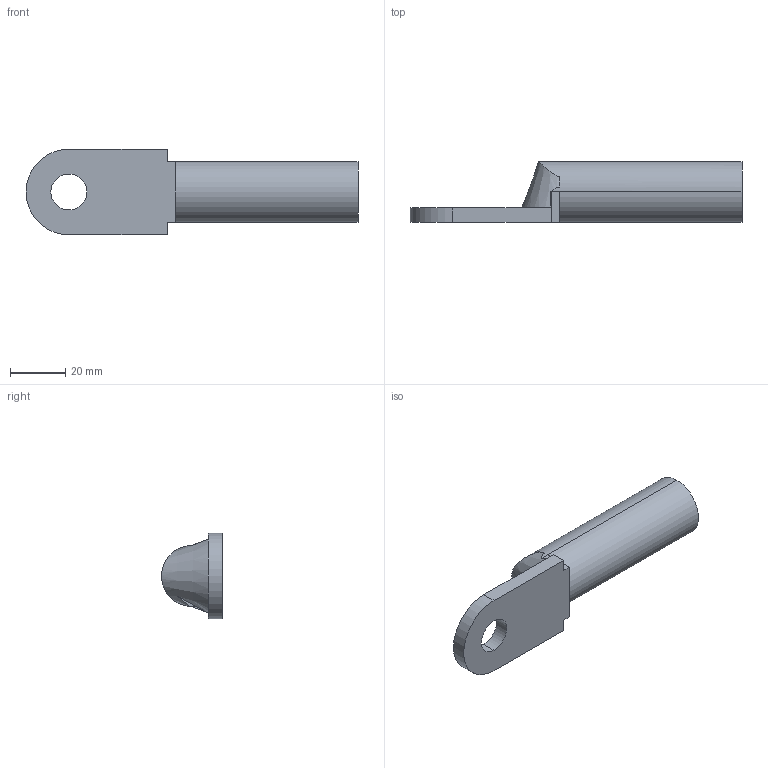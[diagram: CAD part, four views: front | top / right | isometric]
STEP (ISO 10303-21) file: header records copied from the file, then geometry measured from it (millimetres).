
FILE_DESCRIPTION (( 'STEP AP214' ), '1' );
FILE_NAME ('DL-120-12.STEP', '2020-04-24T12:28:59', ( '' ), ( '' ), 'SwSTEP 2.0', 'SolidWorks 2018', '' );
FILE_SCHEMA (( 'AUTOMOTIVE_DESIGN' ));
Length unit declared in the file: millimetre
Products named in the file (1): DL-120-12
Bounding box: 120 x 22 x 31 mm (x, y, z)
Volume: 23653 mm3; surface area: 12232.9 mm2
Topology: 1 solids, 1 shells, 24 faces, 58 edges, 37 vertices
Faces by surface type: plane 16, cylinder 7, cone 1
Entity records: 814 total; most frequent: CARTESIAN_POINT 211, DIRECTION 118, ORIENTED_EDGE 116, EDGE_CURVE 58, AXIS2_PLACEMENT_3D 42, VERTEX_POINT 37, VECTOR 34, LINE 34
